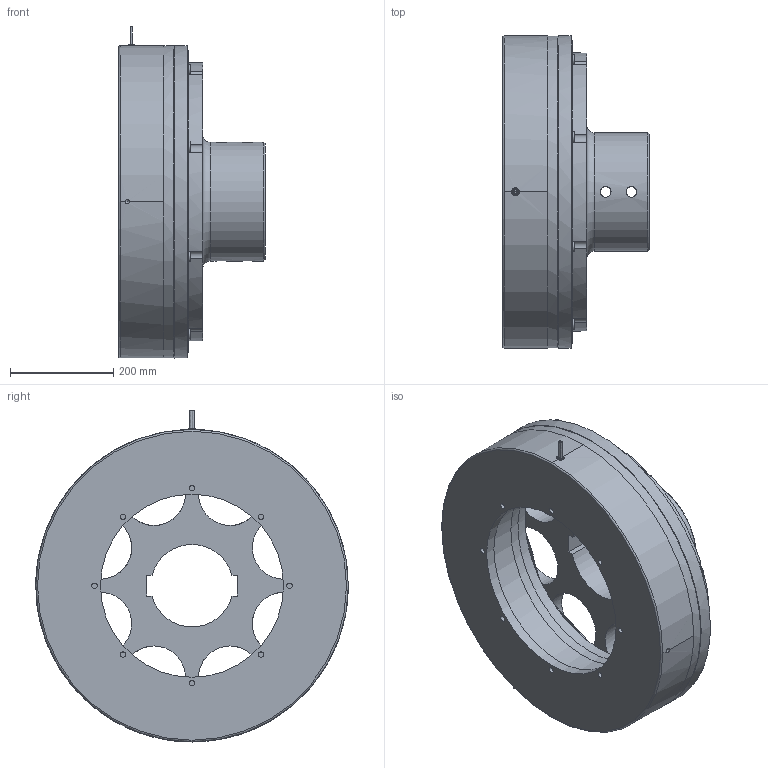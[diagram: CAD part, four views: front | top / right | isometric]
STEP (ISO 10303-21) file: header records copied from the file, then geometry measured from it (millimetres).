
FILE_DESCRIPTION(/* description */ (''),/* implementation_level */ '2;1');
FILE_NAME(/* name */ 'X:\INVENTOR\DISEGNI\08_Freni_Friz_Elettmag_Monodisco\08_28 EMFL_DF\EMFL_DF STEP\08_28_600_12 EMFL600_DF-C-ME@STEP.stp',/* time_stamp */ '2018-04-23T11:01:24+02:00',/* author */ ('stefano'),/* organization */ (''),/* preprocessor_version */ 'ST-DEVELOPER v17',/* originating_system */ 'Autodesk Inventor 2018',/* authorisation */ '');
FILE_SCHEMA (('AUTOMOTIVE_DESIGN { 1 0 10303 214 3 1 1 }'));
Length unit declared in the file: millimetre
Products named in the file (1): 08_28_600_12 EMFL600_DF-C-ME_Substitute_1
Bounding box: 285 x 606 x 643.72 mm (x, y, z)
Volume: 27031163.8 mm3; surface area: 2027430.1 mm2
Topology: 4 solids, 4 shells, 695 faces, 2167 edges, 1442 vertices
Faces by surface type: cylinder 336, plane 280, cone 66, torus 10, bspline 3
Full cylindrical faces by diameter (mm): 5 x16, 8.376 x1, 10.5 x8, 12 x1, 13.835 x8, 14 x16, 15 x1, 19.8 x16, 20 x16, 20.752 x4, 22 x16, 24 x8, 122 x8, 230 x1, 355 x1, 398 x2, 410 x1, 452 x2, 468 x1, 550 x1, 566 x2, 605 x1, 606 x1
Entity records: 26122 total; most frequent: CARTESIAN_POINT 4923, DIRECTION 4734, ORIENTED_EDGE 4320, EDGE_CURVE 2160, AXIS2_PLACEMENT_3D 1963, VERTEX_POINT 1443, CIRCLE 1270, EDGE_LOOP 858
